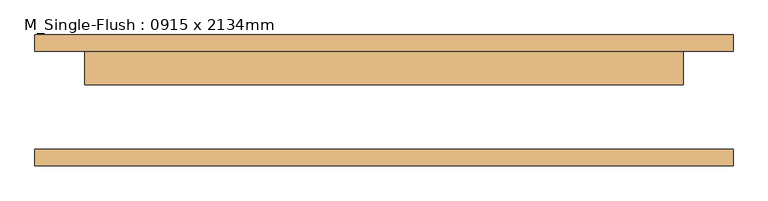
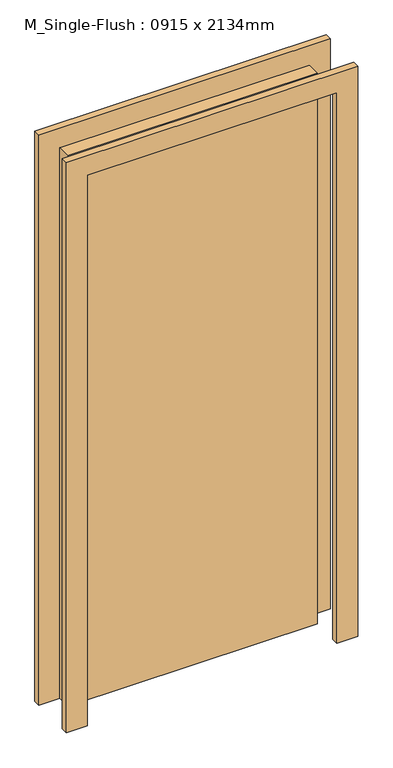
"""IFC4 building model written with IfcOpenShell, lengths in millimetres: door geometry, M_Single-Flush : 0915 x 2134mm."""

from ifc_helpers import new_model, si_unit, frame, origin, origin_with_axes, place, context, project, spatial, polyline, outline, extrude, source, transform, mapped, element, save


def m_single_flush_0915_x_2134mm_138fd904(model_context):
    return source(origin(), model_context, "Body", "SweptSolid", [
        extrude(outline(polyline([(2210.0, -533.5), (0.0, -533.5), (0.0, -457.5), (2134.0, -457.5), (2134.0, 457.5), (0.0, 457.5), (0.0, 533.5), (2210.0, 533.5), (2210.0, -533.5)])), frame((0.0, 75.0, 0.0), z_axis=(0.0, 1.0, 0.0), x_axis=(0.0, 0.0, 1.0)), (0.0, 0.0, 1.0), 25.0),
        extrude(outline(polyline([(2210.0, 533.5), (2210.0, -533.5), (0.0, -533.5), (0.0, -457.5), (2134.0, -457.5), (2134.0, 457.5), (0.0, 457.5), (0.0, 533.5), (2210.0, 533.5)])), frame((0.0, -100.0, 0.0), z_axis=(0.0, 1.0, 0.0), x_axis=(0.0, 0.0, 1.0)), (0.0, 0.0, 1.0), 25.0),
        extrude(outline(polyline([(457.5, 24.0), (-457.5, 24.0), (-457.5, 75.0), (457.5, 75.0), (457.5, 24.0)])), origin_with_axes(), (0.0, 0.0, 1.0), 2134.0),
    ])


if __name__ == "__main__":
    model = new_model("IFC4")
    model_context = context("Model", 3, world=origin())
    ifc_project = project(units=[si_unit("LENGTHUNIT", "METRE", prefix="MILLI")], contexts=[model_context])
    site = spatial("IfcSite", under=ifc_project)
    building = spatial("IfcBuilding", under=site)
    placement = place(None, origin())
    m_single_flush_0915_x_2134mm_shape = m_single_flush_0915_x_2134mm_138fd904(model_context)
    element("IfcDoor", 1, ObjectType="M_Single-Flush : 0915 x 2134mm", at=placement, inside=building, context=model_context, shape_type="MappedRepresentation", body=[
        mapped(m_single_flush_0915_x_2134mm_shape, transform((0.0, 0.0, 0.0), x_axis=(1.0, 0.0, 0.0), y_axis=(0.0, 1.0, 0.0), z_axis=(0.0, 0.0, 1.0))),
    ])
    save(model, "model.ifc")
